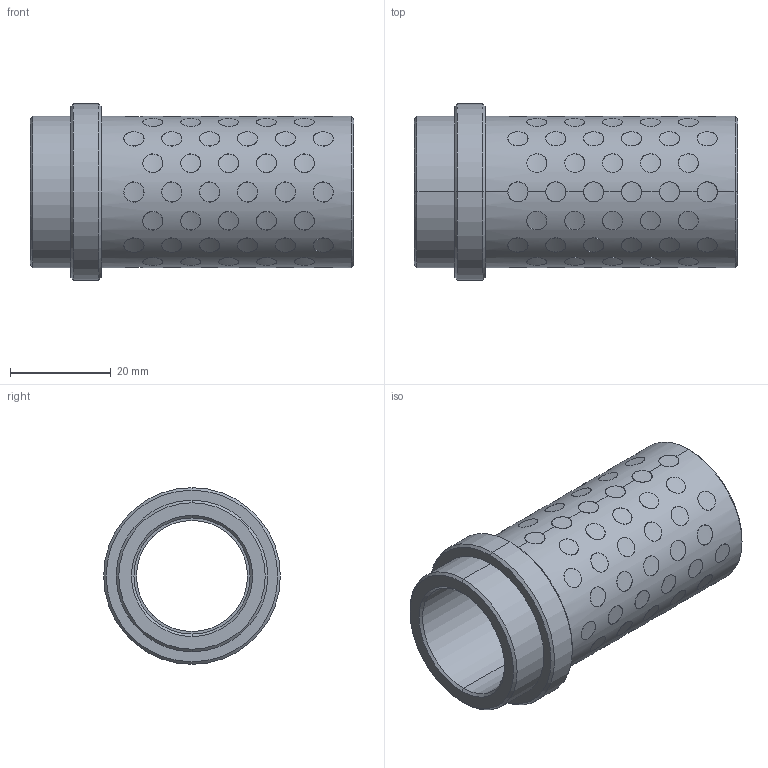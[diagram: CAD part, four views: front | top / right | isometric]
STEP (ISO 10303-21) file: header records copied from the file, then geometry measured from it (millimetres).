
FILE_DESCRIPTION((''),'2;1');
FILE_NAME('G31222056','2017-12-30T',('MANU'),(''),'PRO/ENGINEER BY PARAMETRIC TECHNOLOGY CORPORATION, 2012130','PRO/ENGINEER BY PARAMETRIC TECHNOLOGY CORPORATION, 2012130','');
FILE_SCHEMA(('CONFIG_CONTROL_DESIGN'));
Length unit declared in the file: millimetre
Products named in the file (1): G31222056
Bounding box: 64 x 35 x 35 mm (x, y, z)
Volume: 21662.1 mm3; surface area: 20394.7 mm2
Topology: 89 solids, 89 shells, 555 faces, 1182 edges, 784 vertices
Faces by surface type: cylinder 538, cone 12, plane 5
Entity records: 25888 total; most frequent: CARTESIAN_POINT 15063, ORIENTED_EDGE 2364, DIRECTION 1572, EDGE_CURVE 1182, VERTEX_POINT 784, B_SPLINE_CURVE_WITH_KNOTS 752, EDGE_LOOP 712, AXIS2_PLACEMENT_3D 587
